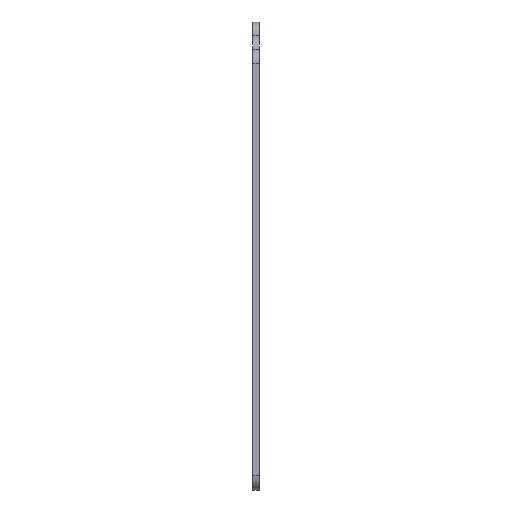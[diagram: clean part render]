
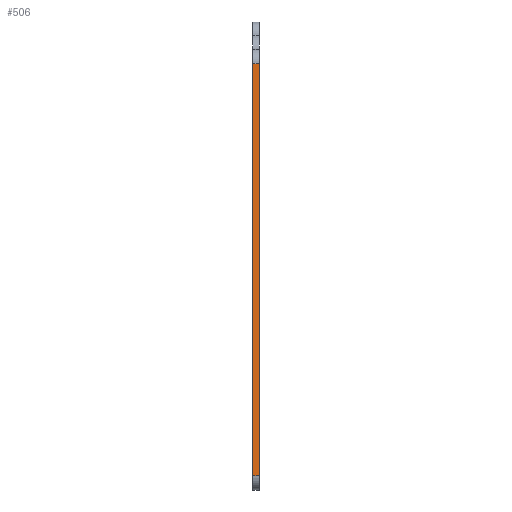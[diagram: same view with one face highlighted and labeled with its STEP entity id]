
A CAD part, left-side view. The second image highlights one B-rep face of the part: STEP entity #506.
In plain terms, the highlighted planar face has unit normal (-1, 0, 0).
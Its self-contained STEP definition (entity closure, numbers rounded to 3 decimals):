
#78 = CARTESIAN_POINT ( 'NONE',  ( -22.15, 0., 21.4 ) ) ;
#110 = VERTEX_POINT ( 'NONE', #1103 ) ;
#112 = CARTESIAN_POINT ( 'NONE',  ( -22.15, 0.7, -21.4 ) ) ;
#142 = CARTESIAN_POINT ( 'NONE',  ( -22.15, 0.7, 21.4 ) ) ;
#169 = ORIENTED_EDGE ( 'NONE', *, *, #1446, .F. ) ;
#176 = LINE ( 'NONE', #78, #917 ) ;
#215 = ORIENTED_EDGE ( 'NONE', *, *, #231, .T. ) ;
#231 = EDGE_CURVE ( 'NONE', #110, #397, #664, .T. ) ;
#375 = EDGE_CURVE ( 'NONE', #110, #1179, #1378, .T. ) ;
#392 = DIRECTION ( 'NONE',  ( 0., 0., 1. ) ) ;
#397 = VERTEX_POINT ( 'NONE', #1175 ) ;
#479 = VERTEX_POINT ( 'NONE', #1405 ) ;
#506 = ADVANCED_FACE ( 'NONE', ( #967 ), #1321, .F. ) ;
#519 = VECTOR ( 'NONE', #712, 1000. ) ;
#574 = LINE ( 'NONE', #1257, #519 ) ;
#614 = EDGE_CURVE ( 'NONE', #397, #479, #176, .T. ) ;
#620 = ORIENTED_EDGE ( 'NONE', *, *, #614, .T. ) ;
#664 = LINE ( 'NONE', #112, #831 ) ;
#671 = CARTESIAN_POINT ( 'NONE',  ( -22.15, 0.7, 21.4 ) ) ;
#693 = ORIENTED_EDGE ( 'NONE', *, *, #375, .F. ) ;
#712 = DIRECTION ( 'NONE',  ( 0., -1., 0. ) ) ;
#790 = DIRECTION ( 'NONE',  ( 0., -1., 0. ) ) ;
#831 = VECTOR ( 'NONE', #790, 1000. ) ;
#875 = DIRECTION ( 'NONE',  ( 0., 0., -1. ) ) ;
#895 = VECTOR ( 'NONE', #1272, 1000. ) ;
#917 = VECTOR ( 'NONE', #392, 1000. ) ;
#967 = FACE_OUTER_BOUND ( 'NONE', #1127, .T. ) ;
#1103 = CARTESIAN_POINT ( 'NONE',  ( -22.15, 0.7, -21.4 ) ) ;
#1127 = EDGE_LOOP ( 'NONE', ( #620, #169, #693, #215 ) ) ;
#1175 = CARTESIAN_POINT ( 'NONE',  ( -22.15, 0., -21.4 ) ) ;
#1179 = VERTEX_POINT ( 'NONE', #671 ) ;
#1257 = CARTESIAN_POINT ( 'NONE',  ( -22.15, 0.7, 21.4 ) ) ;
#1272 = DIRECTION ( 'NONE',  ( 0., 0., 1. ) ) ;
#1321 = PLANE ( 'NONE',  #1360 ) ;
#1360 = AXIS2_PLACEMENT_3D ( 'NONE', #1444, #1413, #875 ) ;
#1378 = LINE ( 'NONE', #142, #895 ) ;
#1405 = CARTESIAN_POINT ( 'NONE',  ( -22.15, 0., 21.4 ) ) ;
#1413 = DIRECTION ( 'NONE',  ( 1., 0., 0. ) ) ;
#1444 = CARTESIAN_POINT ( 'NONE',  ( -22.15, 0.7, 21.4 ) ) ;
#1446 = EDGE_CURVE ( 'NONE', #1179, #479, #574, .T. ) ;
